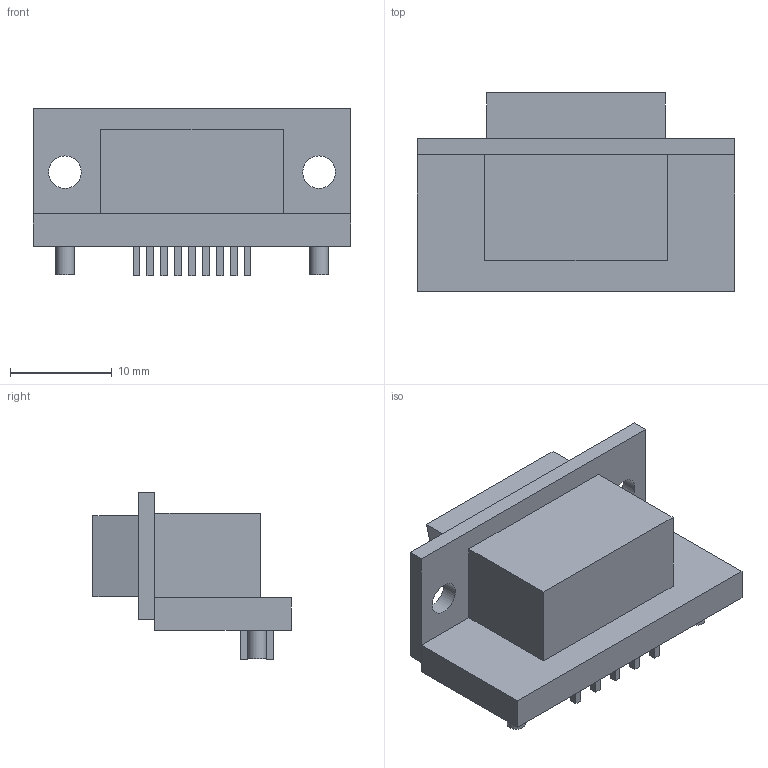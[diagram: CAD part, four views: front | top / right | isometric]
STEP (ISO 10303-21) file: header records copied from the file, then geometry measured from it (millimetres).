
FILE_DESCRIPTION(('Open CASCADE Model'),'2;1');
FILE_NAME('Open CASCADE Shape Model','2026-11-07T16:06:51',('Author'),( 'Open CASCADE'),'Open CASCADE STEP processor 7.9','Open CASCADE 7.9' ,'Unknown');
FILE_SCHEMA(('AUTOMOTIVE_DESIGN { 1 0 10303 214 1 1 1 1 }'));
Length unit declared in the file: millimetre
Products named in the file (16): DE9_09661527612; insulator; mounting-flange-4-40; D-shell; socket-insulator; pin-1; pin-2; pin-3; pin-4; pin-5; pin-6; pin-7; pin-8; pin-9; shell-tail-0; shell-tail-1
Assembly tree (15 placements, depth 2):
  DE9_09661527612
    insulator
    mounting-flange-4-40
    D-shell
    socket-insulator
    pin-1
    pin-2
    pin-3
    pin-4
    pin-5
    pin-6
    pin-7
    pin-8
    pin-9
    shell-tail-0
    shell-tail-1
Bounding box: 31.2 x 19.5 x 16.5 mm (x, y, z)
Volume: 4052.8 mm3; surface area: 3650.5 mm2
Topology: 15 solids, 15 shells, 103 faces, 219 edges, 146 vertices
Faces by surface type: plane 90, cylinder 13
Full cylindrical faces by diameter (mm): 1.1 x9, 1.8 x2, 3.2 x2
Entity records: 6010 total; most frequent: CARTESIAN_POINT 922, DIRECTION 921, LINE 605, VECTOR 605, ORIENTED_EDGE 438, PCURVE 438, DEFINITIONAL_REPRESENTATION 438, EDGE_CURVE 219
